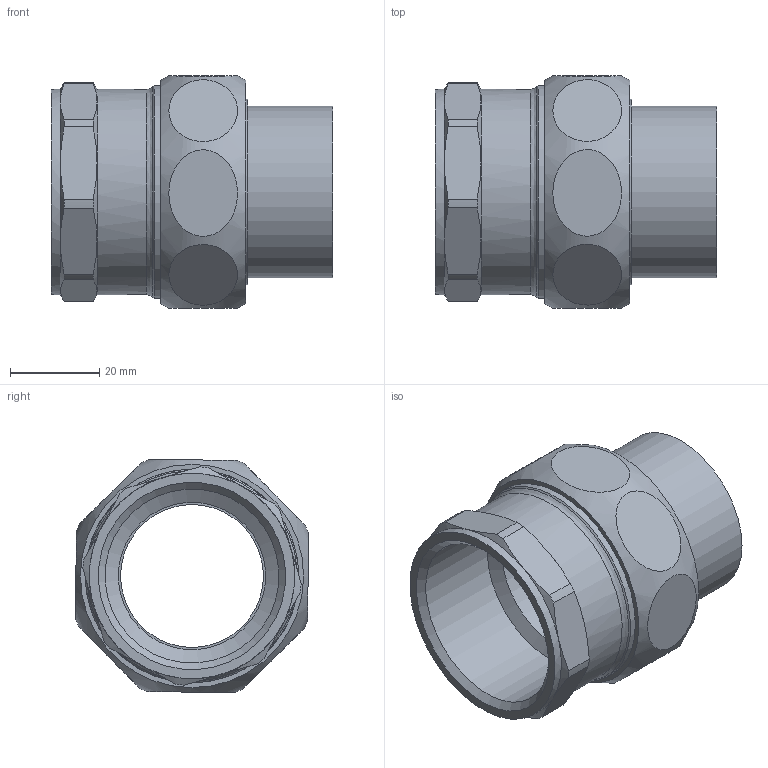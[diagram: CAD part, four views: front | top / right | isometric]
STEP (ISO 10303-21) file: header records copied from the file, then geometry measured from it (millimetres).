
FILE_DESCRIPTION((''),'2;1');
FILE_NAME('\\Lg50001\groups\SANHA Legnica\Engineering\Public\RYSUNKI\SANHA POLSKA\4330g\step\14330g_35-114(1).stp','2010-07-23T14:18:27',('pajchrowski'),(''),'Autodesk Inventor 2009','Autodesk Inventor 2009','');
FILE_SCHEMA(('AUTOMOTIVE_DESIGN { 1 0 10303 214 1 1 1 1 }'));
Length unit declared in the file: millimetre
Products named in the file (5): 14330g_35-114(1); 14372_35-112(1); 14374_112(0); 1DCU112; 14370g-114_112(0)
Assembly tree (4 placements, depth 2):
  14330g_35-114(1)
    14372_35-112(1)
    14374_112(0)
    1DCU112
    14370g-114_112(0)
Bounding box: 63 x 52.18 x 52.18 mm (x, y, z)
Volume: 43395.9 mm3; surface area: 27022.5 mm2
Topology: 4 solids, 4 shells, 73 faces, 145 edges, 91 vertices
Faces by surface type: plane 28, cylinder 22, cone 21, bspline 2
Full cylindrical faces by diameter (mm): 32 x1, 33 x2, 35 x1, 38.4 x1, 38.952 x1, 41.5 x1, 42.5 x1, 44 x1, 44.5 x1, 44.845 x1, 46 x2, 47.803 x1
Entity records: 3328 total; most frequent: CARTESIAN_POINT 1816, DIRECTION 304, ORIENTED_EDGE 240, AXIS2_PLACEMENT_3D 144, EDGE_CURVE 120, EDGE_LOOP 114, VERTEX_POINT 88, FACE_OUTER_BOUND 73
